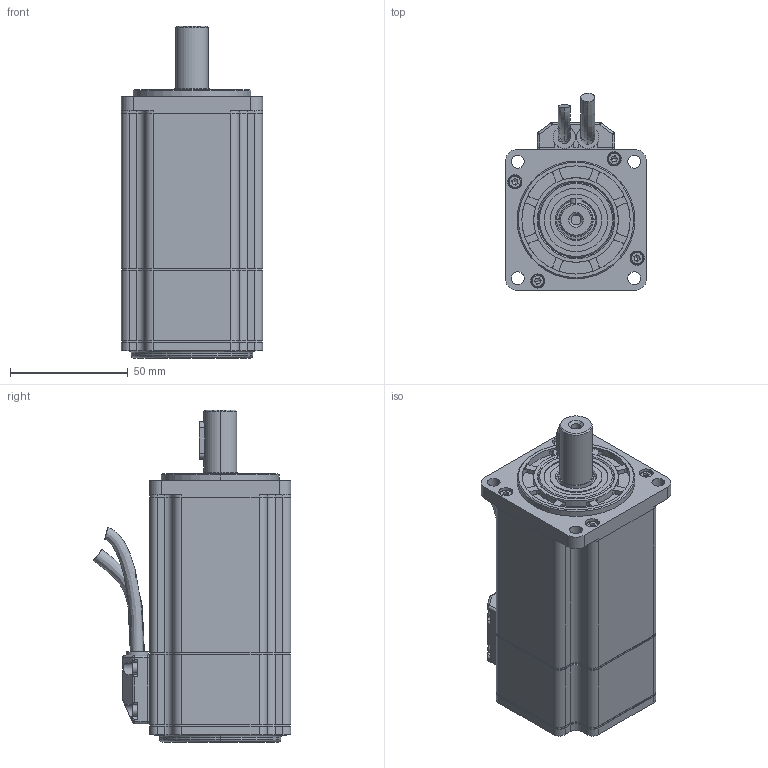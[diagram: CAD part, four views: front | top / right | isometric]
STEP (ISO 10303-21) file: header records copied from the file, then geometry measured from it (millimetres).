
FILE_DESCRIPTION (( 'STEP AP203' ), '1' );
FILE_NAME ('SMH60-203026ENL.STEP', '2011-08-31T03:09:10', ( '微软用户' ), ( '微软中国' ), 'SwSTEP 2.0', 'SolidWorks 2008', '' );
FILE_SCHEMA (( 'CONFIG_CONTROL_DESIGN' ));
Length unit declared in the file: millimetre
Products named in the file (1): SMH60-203026ENL
Bounding box: 60 x 84.01 x 141.1 mm (x, y, z)
Surface area: 42007.5 mm2 (no closed solid volume)
Topology: 0 solids, 29 shells, 567 faces, 1661 edges, 1105 vertices
Faces by surface type: plane 264, cylinder 231, cone 38, torus 20, sphere 10, bspline 4
Entity records: 19104 total; most frequent: CARTESIAN_POINT 3796, DIRECTION 3394, ORIENTED_EDGE 2877, EDGE_CURVE 1639, AXIS2_PLACEMENT_3D 1223, VERTEX_POINT 1105, LINE 948, VECTOR 948
